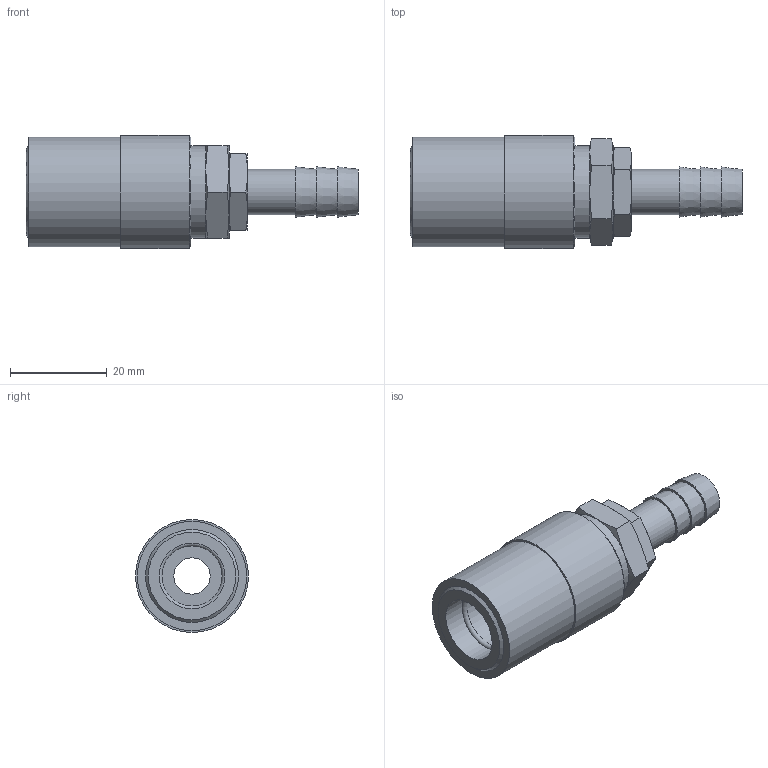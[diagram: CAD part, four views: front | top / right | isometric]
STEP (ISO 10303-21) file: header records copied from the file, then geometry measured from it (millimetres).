
FILE_DESCRIPTION(/* description */ ('STEP AP214'),/* implementation_level */ '2;1');
FILE_NAME(/* name */ 'JS-306-V',/* time_stamp */ '2024-12-19T08:39:45+01:00',/* author */ ('License CC BY-ND 4.0'),/* organization */ ('CADENAS'),/* preprocessor_version */ 'ST-DEVELOPER v19.3',/* originating_system */ 'PARTsolutions',/* authorisation */ ' ');
FILE_SCHEMA (('AUTOMOTIVE_DESIGN {1 0 10303 214 3 1 1}'));
Length unit declared in the file: inch
Products named in the file (1): JS-306-V
Bounding box: 68.64 x 23.37 x 23.37 mm (x, y, z)
Volume: 14288.5 mm3; surface area: 6655.7 mm2
Topology: 1 solids, 1 shells, 60 faces, 119 edges, 70 vertices
Faces by surface type: cone 29, plane 23, cylinder 7, torus 1
Full cylindrical faces by diameter (mm): 7.518 x1, 9.398 x1, 13.564 x2, 19.05 x1, 22.606 x1, 23.368 x1
Entity records: 1544 total; most frequent: CARTESIAN_POINT 381, DIRECTION 226, ORIENTED_EDGE 212, AXIS2_PLACEMENT_3D 107, EDGE_CURVE 106, EDGE_LOOP 84, FACE_BOUND 84, VERTEX_POINT 70
